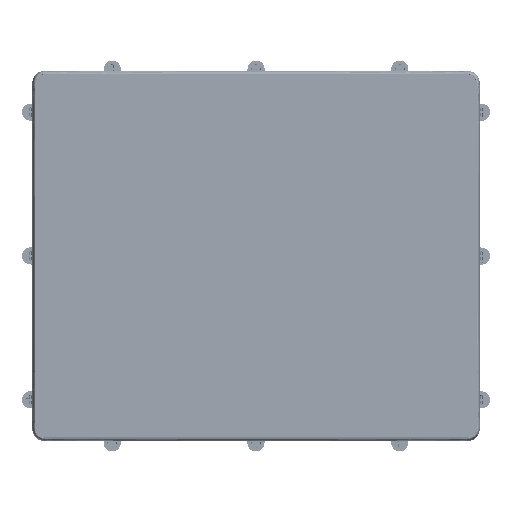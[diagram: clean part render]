
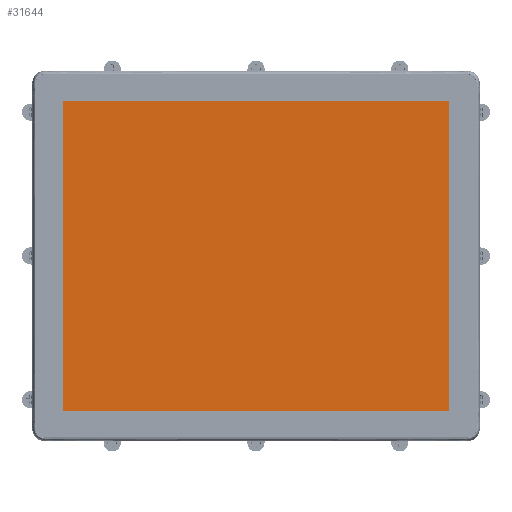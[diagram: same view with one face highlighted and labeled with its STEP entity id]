
A CAD part, top view. The second image highlights one B-rep face of the part: STEP entity #31644.
In plain terms, the highlighted planar face has unit normal (0, 0, 1).
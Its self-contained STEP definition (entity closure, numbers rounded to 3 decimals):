
#3433=DIRECTION('',(0.,-1.,0.));
#3434=VECTOR('',#3433,271.34);
#3435=CARTESIAN_POINT('',(-169.46,135.67,5.94));
#3436=LINE('',#3435,#3434);
#3437=DIRECTION('',(-1.,0.,0.));
#3438=VECTOR('',#3437,338.92);
#3439=CARTESIAN_POINT('',(169.46,135.67,5.94));
#3440=LINE('',#3439,#3438);
#3441=DIRECTION('',(0.,1.,0.));
#3442=VECTOR('',#3441,271.34);
#3443=CARTESIAN_POINT('',(169.46,-135.67,5.94));
#3444=LINE('',#3443,#3442);
#3445=DIRECTION('',(1.,0.,0.));
#3446=VECTOR('',#3445,338.92);
#3447=CARTESIAN_POINT('',(-169.46,-135.67,5.94));
#3448=LINE('',#3447,#3446);
#27302=CARTESIAN_POINT('',(-169.46,135.67,5.94));
#27304=VERTEX_POINT('',#27302);
#27307=CARTESIAN_POINT('',(-169.46,-135.67,5.94));
#27309=VERTEX_POINT('',#27307);
#27310=CARTESIAN_POINT('',(169.46,135.67,5.94));
#27312=VERTEX_POINT('',#27310);
#27314=CARTESIAN_POINT('',(169.46,-135.67,5.94));
#27316=VERTEX_POINT('',#27314);
#31633=CARTESIAN_POINT('',(0.,0.,5.94));
#31634=DIRECTION('',(0.,0.,1.));
#31635=DIRECTION('',(1.,0.,0.));
#31636=AXIS2_PLACEMENT_3D('',#31633,#31634,#31635);
#31637=PLANE('',#31636);
#31638=ORIENTED_EDGE('',*,*,#31556,.F.);
#31639=ORIENTED_EDGE('',*,*,#31580,.F.);
#31640=ORIENTED_EDGE('',*,*,#31599,.F.);
#31641=ORIENTED_EDGE('',*,*,#31619,.F.);
#31642=EDGE_LOOP('',(#31638,#31639,#31640,#31641));
#31643=FACE_OUTER_BOUND('',#31642,.F.);
#31644=ADVANCED_FACE('',(#31643),#31637,.T.);
#31556=EDGE_CURVE('',#27304,#27309,#3436,.T.);
#31580=EDGE_CURVE('',#27312,#27304,#3440,.T.);
#31599=EDGE_CURVE('',#27316,#27312,#3444,.T.);
#31619=EDGE_CURVE('',#27309,#27316,#3448,.T.);
